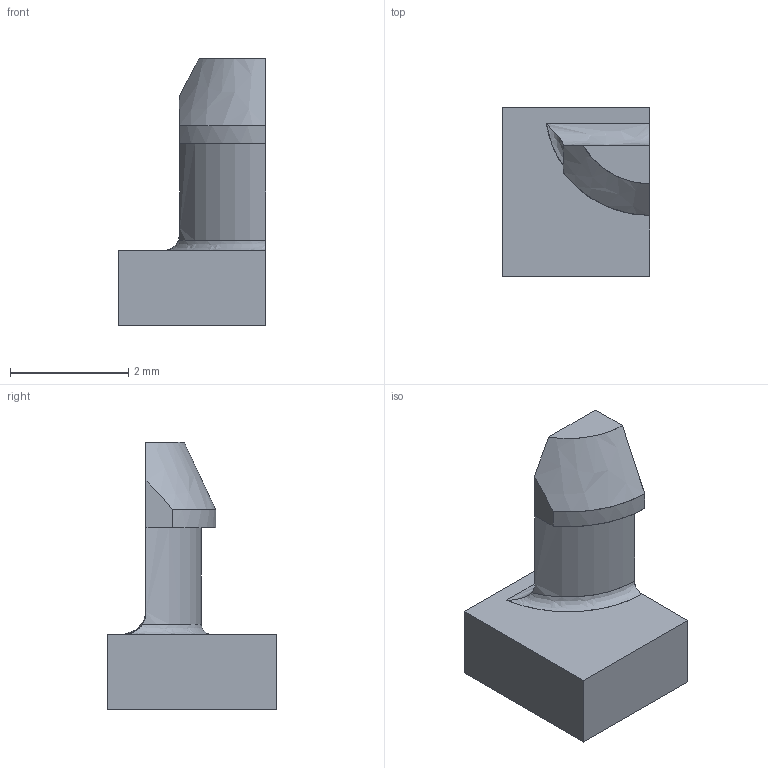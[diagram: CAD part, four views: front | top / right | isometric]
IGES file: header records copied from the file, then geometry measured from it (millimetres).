
Global section: file name: peg3.igs; native system: HP PE/SolidDesigner 3D IGES; preprocessor: 06.10B  20-Oct-98; date: 000417.133633; units: inch
Bounding box: 2.48 x 2.86 x 4.52 mm (x, y, z)
Surface area: 41.3 mm2 (no closed solid volume)
Topology: 0 solids, 0 shells, 15 faces, 114 edges, 114 vertices
Faces by surface type: bspline 15
